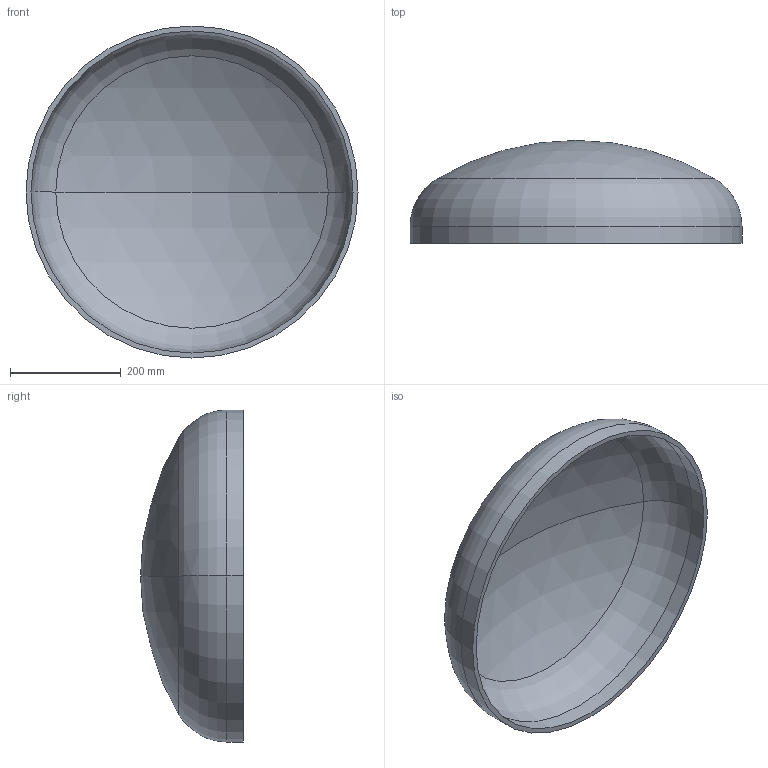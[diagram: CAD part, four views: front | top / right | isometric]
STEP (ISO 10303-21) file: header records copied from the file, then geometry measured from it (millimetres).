
FILE_DESCRIPTION (( 'STEP AP203' ), '1' );
FILE_NAME ('DIN 28013 Korbbogenform_-_Boden DIN 28013 - 600 x 30 - I - s=9.step', '2016-07-01T07:57:08', ( '' ), ( '' ), 'SwSTEP 2.0', 'SolidWorks 2013', '' );
FILE_SCHEMA (( 'CONFIG_CONTROL_DESIGN' ));
Length unit declared in the file: millimetre
Products named in the file (1): DIN 28013 Korbbogenform_-_Boden DIN 28013 - 600 x 30 - I - s=9
Bounding box: 600 x 185.92 x 600 mm (x, y, z)
Volume: 3953584.5 mm3; surface area: 895453.8 mm2
Topology: 1 solids, 1 shells, 13 faces, 24 edges, 14 vertices
Faces by surface type: torus 4, cylinder 4, sphere 4, plane 1
Entity records: 407 total; most frequent: DIRECTION 72, CARTESIAN_POINT 52, ORIENTED_EDGE 48, AXIS2_PLACEMENT_3D 34, EDGE_CURVE 24, CIRCLE 20, VERTEX_POINT 14, EDGE_LOOP 14
